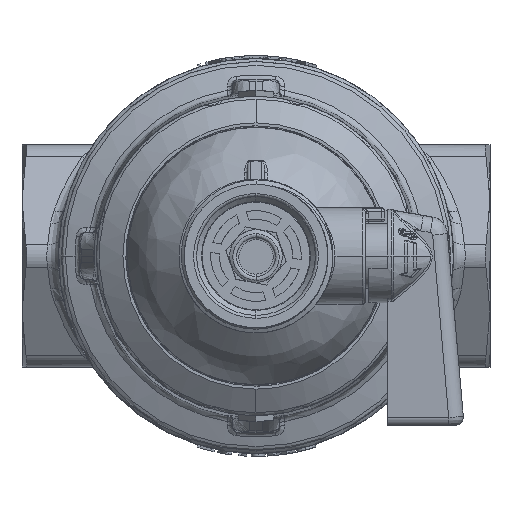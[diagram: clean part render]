
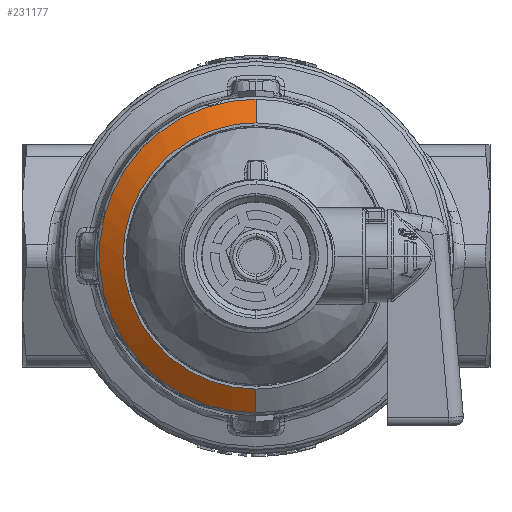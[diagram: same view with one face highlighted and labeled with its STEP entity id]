
A CAD part, front view. The second image highlights one B-rep face of the part: STEP entity #231177.
In plain terms, the highlighted conical face has half-angle 56.31 degrees and reference radius 26.805 mm.
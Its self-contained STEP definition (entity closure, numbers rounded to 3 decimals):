
#5215 = EDGE_CURVE ( 'NONE', #249612, #261113, #239701, .T. ) ;
#5273 = CARTESIAN_POINT ( 'NONE',  ( 0., -134.5, -22.75 ) ) ;
#6606 = CARTESIAN_POINT ( 'NONE',  ( -18.089, -134.5, -13.877 ) ) ;
#7928 = CARTESIAN_POINT ( 'NONE',  ( -15.034, -134.5, -17.14 ) ) ;
#9542 = LINE ( 'NONE', #172580, #210991 ) ;
#16999 = EDGE_CURVE ( 'NONE', #249612, #70925, #105920, .T. ) ;
#25083 = AXIS2_PLACEMENT_3D ( 'NONE', #51677, #216220, #91797 ) ;
#25289 = CARTESIAN_POINT ( 'NONE',  ( -2.978, -134.5, -22.603 ) ) ;
#28901 = VECTOR ( 'NONE', #187502, 1000. ) ;
#31676 = DIRECTION ( 'NONE',  ( 0., 1., 0. ) ) ;
#31933 = CARTESIAN_POINT ( 'NONE',  ( -11.401, -134.5, 19.743 ) ) ;
#34530 = CARTESIAN_POINT ( 'NONE',  ( -17.14, -134.5, 15.034 ) ) ;
#37155 = CARTESIAN_POINT ( 'NONE',  ( -7.33, -134.5, 21.588 ) ) ;
#38881 = ORIENTED_EDGE ( 'NONE', *, *, #5215, .T. ) ;
#46374 = CARTESIAN_POINT ( 'NONE',  ( 0., -134.5, 22.75 ) ) ;
#46649 = CARTESIAN_POINT ( 'NONE',  ( -17.14, -134.5, -15.034 ) ) ;
#49301 = CARTESIAN_POINT ( 'NONE',  ( -21.588, -134.5, -7.33 ) ) ;
#51677 = CARTESIAN_POINT ( 'NONE',  ( 0., -131.797, 0. ) ) ;
#51958 = CARTESIAN_POINT ( 'NONE',  ( -5.899, -134.5, 22.022 ) ) ;
#57202 = CARTESIAN_POINT ( 'NONE',  ( -20.448, -134.5, 10.082 ) ) ;
#58580 = EDGE_CURVE ( 'NONE', #225654, #118760, #263689, .T. ) ;
#62172 = CARTESIAN_POINT ( 'NONE',  ( 0., -131.797, 0. ) ) ;
#62319 = AXIS2_PLACEMENT_3D ( 'NONE', #90475, #31676, #171987 ) ;
#63402 = CIRCLE ( 'NONE', #25083, 26.805 ) ;
#70925 = VERTEX_POINT ( 'NONE', #158251 ) ;
#86754 = CARTESIAN_POINT ( 'NONE',  ( -13.877, -134.5, -18.089 ) ) ;
#90475 = CARTESIAN_POINT ( 'NONE',  ( 0., -131.797, 0. ) ) ;
#91797 = DIRECTION ( 'NONE',  ( -0.968, 0., 0.25 ) ) ;
#105920 = LINE ( 'NONE', #246670, #28901 ) ;
#106767 = CARTESIAN_POINT ( 'NONE',  ( -5.899, -134.5, -22.022 ) ) ;
#107945 = CARTESIAN_POINT ( 'NONE',  ( -25.952, -131.797, 6.706 ) ) ;
#110829 = CARTESIAN_POINT ( 'NONE',  ( -7.33, -134.5, -21.588 ) ) ;
#113503 = CARTESIAN_POINT ( 'NONE',  ( -10.082, -134.5, 20.448 ) ) ;
#118760 = VERTEX_POINT ( 'NONE', #245483 ) ;
#129874 = DIRECTION ( 'NONE',  ( 0., 0.555, 0.832 ) ) ;
#133525 = CARTESIAN_POINT ( 'NONE',  ( -22.75, -134.5, 1.489 ) ) ;
#134616 = FACE_OUTER_BOUND ( 'NONE', #182423, .T. ) ;
#136195 = CARTESIAN_POINT ( 'NONE',  ( -19.743, -134.5, 11.401 ) ) ;
#137475 = CARTESIAN_POINT ( 'NONE',  ( -22.603, -134.5, 2.978 ) ) ;
#138805 = CARTESIAN_POINT ( 'NONE',  ( -22.022, -134.5, 5.899 ) ) ;
#154530 = EDGE_CURVE ( 'NONE', #261113, #118760, #9542, .T. ) ;
#157449 = CARTESIAN_POINT ( 'NONE',  ( -13.877, -134.5, 18.089 ) ) ;
#158251 = CARTESIAN_POINT ( 'NONE',  ( 0., -131.797, -26.805 ) ) ;
#166402 = DIRECTION ( 'NONE',  ( -0.968, 0., 0.25 ) ) ;
#169626 = CARTESIAN_POINT ( 'NONE',  ( -19.743, -134.5, -11.401 ) ) ;
#171987 = DIRECTION ( 'NONE',  ( 0., 0., 1. ) ) ;
#172110 = ORIENTED_EDGE ( 'NONE', *, *, #58580, .F. ) ;
#172280 = CARTESIAN_POINT ( 'NONE',  ( -22.603, -134.5, -2.978 ) ) ;
#172580 = CARTESIAN_POINT ( 'NONE',  ( 0., -131.797, 26.805 ) ) ;
#177524 = CARTESIAN_POINT ( 'NONE',  ( -21.588, -134.5, 7.33 ) ) ;
#177622 = CONICAL_SURFACE ( 'NONE', #62319, 26.805, 0.983 ) ;
#180150 = CARTESIAN_POINT ( 'NONE',  ( -15.034, -134.5, 17.14 ) ) ;
#182423 = EDGE_LOOP ( 'NONE', ( #263084, #38881, #214224, #172110, #251369 ) ) ;
#186481 = DIRECTION ( 'NONE',  ( 0., 1., 0. ) ) ;
#187502 = DIRECTION ( 'NONE',  ( 0., 0.555, -0.832 ) ) ;
#188372 = CARTESIAN_POINT ( 'NONE',  ( -10.082, -134.5, -20.448 ) ) ;
#189685 = CARTESIAN_POINT ( 'NONE',  ( -1.489, -134.5, -22.75 ) ) ;
#192331 = CARTESIAN_POINT ( 'NONE',  ( -11.401, -134.5, -19.743 ) ) ;
#195022 = CARTESIAN_POINT ( 'NONE',  ( -18.089, -134.5, 13.877 ) ) ;
#195830 = CARTESIAN_POINT ( 'NONE',  ( 0., -134.5, -22.75 ) ) ;
#210991 = VECTOR ( 'NONE', #129874, 1000. ) ;
#212317 = AXIS2_PLACEMENT_3D ( 'NONE', #62172, #186481, #166402 ) ;
#212464 = CARTESIAN_POINT ( 'NONE',  ( -22.022, -134.5, -5.899 ) ) ;
#214224 = ORIENTED_EDGE ( 'NONE', *, *, #154530, .T. ) ;
#216220 = DIRECTION ( 'NONE',  ( 0., 1., 0. ) ) ;
#220478 = CARTESIAN_POINT ( 'NONE',  ( -22.75, -134.5, -1.489 ) ) ;
#225654 = VERTEX_POINT ( 'NONE', #107945 ) ;
#231177 = ADVANCED_FACE ( 'NONE', ( #134616 ), #177622, .T. ) ;
#232660 = CARTESIAN_POINT ( 'NONE',  ( -20.448, -134.5, -10.082 ) ) ;
#236682 = CARTESIAN_POINT ( 'NONE',  ( -2.978, -134.5, 22.603 ) ) ;
#239291 = CARTESIAN_POINT ( 'NONE',  ( -1.489, -134.5, 22.75 ) ) ;
#239701 = B_SPLINE_CURVE_WITH_KNOTS ( 'NONE', 3,
 ( #5273, #189685, #25289, #106767, #110829, #188372, #192331, #86754, #7928, #46649, #6606, #169626, #232660, #49301, #212464, #172280, #220478, #133525, #137475, #138805, #177524, #57202, #136195, #195022, #34530, #180150, #157449, #31933, #113503, #37155, #51958, #236682, #239291, #262017 ),
 .UNSPECIFIED., .F., .F.,
 ( 4, 2, 2, 2, 2, 2, 2, 2, 2, 2, 2, 2, 2, 2, 2, 2, 4 ),
 ( 0.71, 0.741, 0.772, 0.804, 0.835, 0.866, 0.897, 0.929, 0.96, 0.991, 1.022, 1.054, 1.085, 1.116, 1.147, 1.179, 1.21 ),
 .UNSPECIFIED. ) ;
#245483 = CARTESIAN_POINT ( 'NONE',  ( 0., -131.797, 26.805 ) ) ;
#246670 = CARTESIAN_POINT ( 'NONE',  ( 0., -131.797, -26.805 ) ) ;
#249612 = VERTEX_POINT ( 'NONE', #195830 ) ;
#251369 = ORIENTED_EDGE ( 'NONE', *, *, #257099, .F. ) ;
#257099 = EDGE_CURVE ( 'NONE', #70925, #225654, #63402, .T. ) ;
#261113 = VERTEX_POINT ( 'NONE', #46374 ) ;
#262017 = CARTESIAN_POINT ( 'NONE',  ( 0., -134.5, 22.75 ) ) ;
#263084 = ORIENTED_EDGE ( 'NONE', *, *, #16999, .F. ) ;
#263689 = CIRCLE ( 'NONE', #212317, 26.805 ) ;
